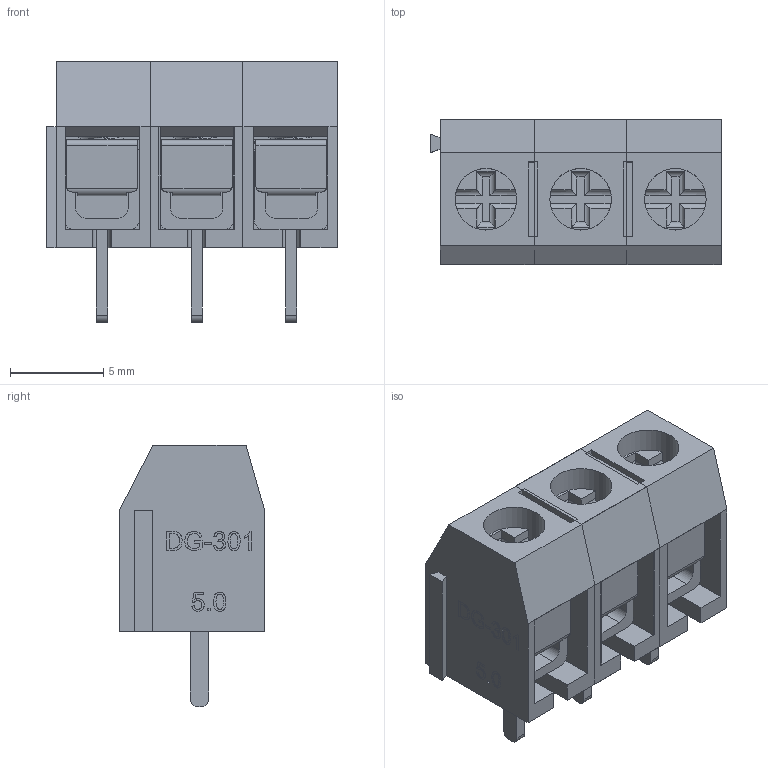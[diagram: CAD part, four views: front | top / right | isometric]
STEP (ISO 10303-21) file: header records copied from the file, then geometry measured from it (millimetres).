
FILE_DESCRIPTION(/* description */ (''),/* implementation_level */ '2;1');
FILE_NAME(/* name */ 'Screw-Terminal-P5.08_3_Pin.step',/* time_stamp */ '2025-06-22T15:45:50+02:00',/* author */ (''),/* organization */ (''),/* preprocessor_version */ 'ST-DEVELOPER v20.1',/* originating_system */ 'Autodesk Translation Framework v14.10.0.0',/* authorisation */ '');
FILE_SCHEMA (('AUTOMOTIVE_DESIGN { 1 0 10303 214 3 1 1 }'));
Products named in the file (1): Screw-Terminal-P5.08
Bounding box: 15.58 x 7.8 x 14 mm (x, y, z)
Volume: 1630.7 mm3; surface area: 4181.1 mm2
Topology: 15 solids, 15 shells, 2565 faces, 7413 edges, 4938 vertices
Faces by surface type: bspline 1419, plane 756, cylinder 390
Full cylindrical faces by diameter (mm): 2.016 x48, 2.075 x12, 2.53 x30, 2.58 x12, 3.3 x18
Entity records: 137611 total; most frequent: CARTESIAN_POINT 80437, ORIENTED_EDGE 14826, EDGE_CURVE 7413, DIRECTION 6803, VERTEX_POINT 4938, LINE 3597, VECTOR 3597, B_SPLINE_CURVE_WITH_KNOTS 3360
